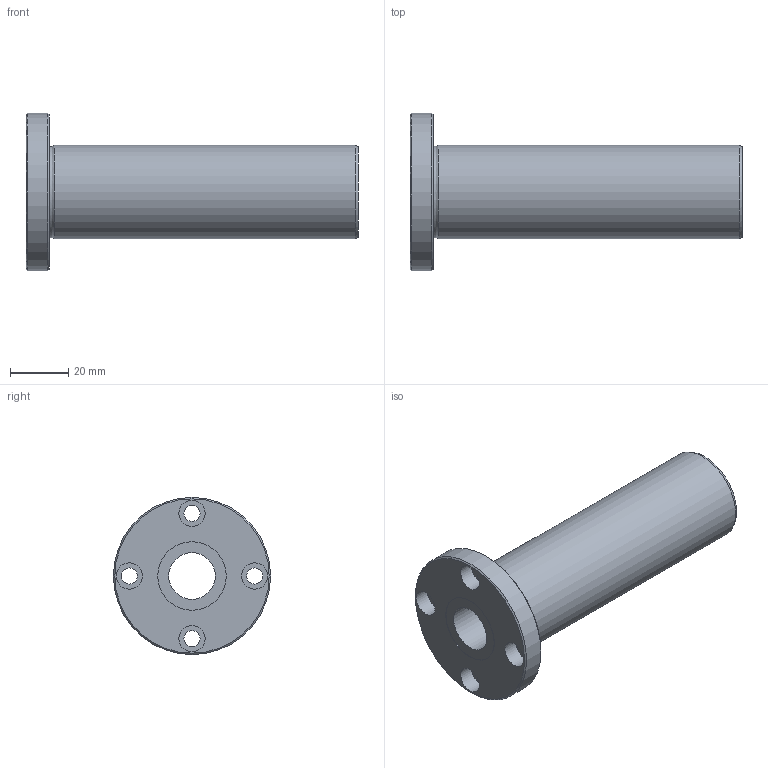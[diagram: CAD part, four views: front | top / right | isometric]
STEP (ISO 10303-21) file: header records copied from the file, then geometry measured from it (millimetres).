
FILE_DESCRIPTION((''),'2;1');
FILE_NAME('D:\製品 (図面)\カタログ用3D\メンテナンスフリー関連\STEP形式\LFL-MF\LFL16MF.stp','2010-06-01T16:03:44',('Tsuchiya'),(''),'Autodesk Inventor 10','Autodesk Inventor 10','');
FILE_SCHEMA(('AUTOMOTIVE_DESIGN { 1 0 10303 214 1 1 1 1 }'));
Length unit declared in the file: millimetre
Products named in the file (1): LFL16MF
Bounding box: 114 x 54 x 54 mm (x, y, z)
Volume: 78883.3 mm3; surface area: 22416.2 mm2
Topology: 1 solids, 1 shells, 26 faces, 47 edges, 30 vertices
Faces by surface type: cylinder 13, plane 9, cone 2, torus 1, bspline 1
Full cylindrical faces by diameter (mm): 5.5 x4, 9 x4, 16 x1, 23.5 x2, 32 x1, 54 x1
Entity records: 665 total; most frequent: CARTESIAN_POINT 149, DIRECTION 112, ORIENTED_EDGE 60, EDGE_LOOP 60, AXIS2_PLACEMENT_3D 56, FACE_BOUND 34, VERTEX_POINT 30, CIRCLE 30
